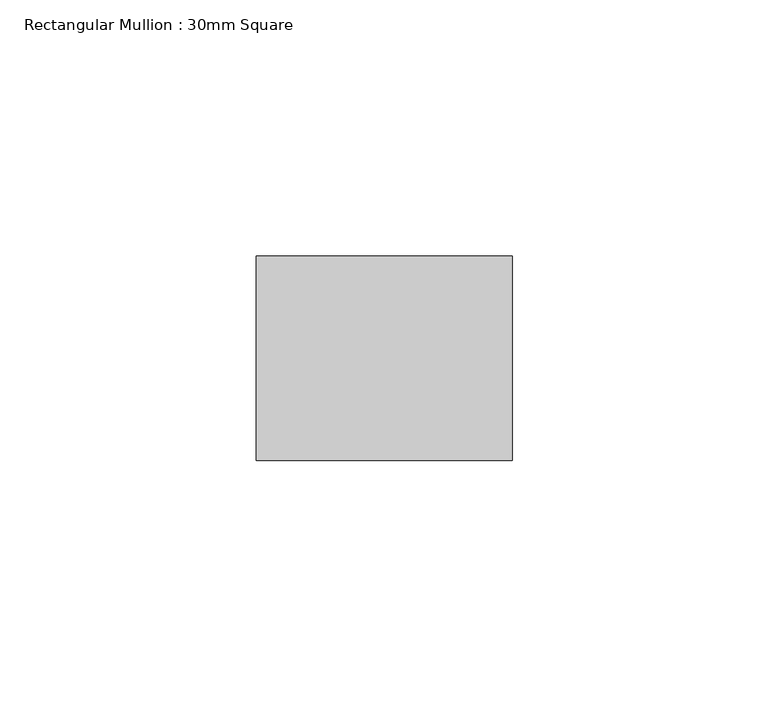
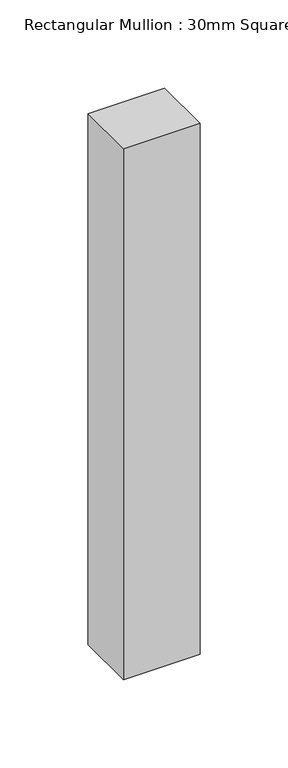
"""IFC4 building model written with IfcOpenShell, lengths in millimetres: member geometry, Rectangular Mullion : 30mm Square."""

from ifc_helpers import new_model, si_unit, frame, origin, place, context, project, spatial, polyline, outline, extrude, source, transform, mapped, element, save


def rectangular_mullion_30mm_square_509656ef(model_context):
    return source(origin(), model_context, "Body", "SweptSolid", [
        extrude(outline(polyline([(0.0, 20.0), (0.0, -20.0), (-50.0, -20.0), (-50.0, 20.0), (0.0, 20.0)])), frame((0.0, 0.0, -367.1572875), z_axis=(0.0, 0.0, 1.0), x_axis=(1.0, 0.0, 0.0)), (0.0, 0.0, 1.0), 367.1572875),
    ])


if __name__ == "__main__":
    model = new_model("IFC4")
    model_context = context("Model", 3, world=origin())
    ifc_project = project(units=[si_unit("LENGTHUNIT", "METRE", prefix="MILLI")], contexts=[model_context])
    site = spatial("IfcSite", under=ifc_project)
    building = spatial("IfcBuilding", under=site)
    placement = place(None, origin())
    rectangular_mullion_30mm_square_shape = rectangular_mullion_30mm_square_509656ef(model_context)
    element("IfcMember", 1, ObjectType="Rectangular Mullion : 30mm Square", at=placement, inside=building, context=model_context, shape_type="MappedRepresentation", body=[
        mapped(rectangular_mullion_30mm_square_shape, transform((0.0, 0.0, 0.0), x_axis=(1.0, 0.0, 0.0), y_axis=(0.0, 1.0, 0.0), z_axis=(0.0, 0.0, 1.0))),
    ])
    save(model, "model.ifc")
